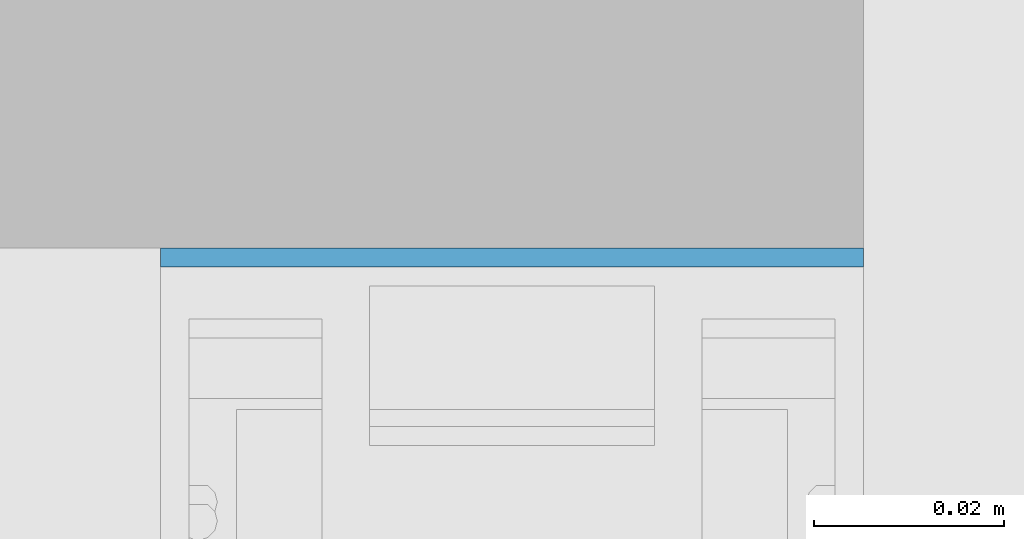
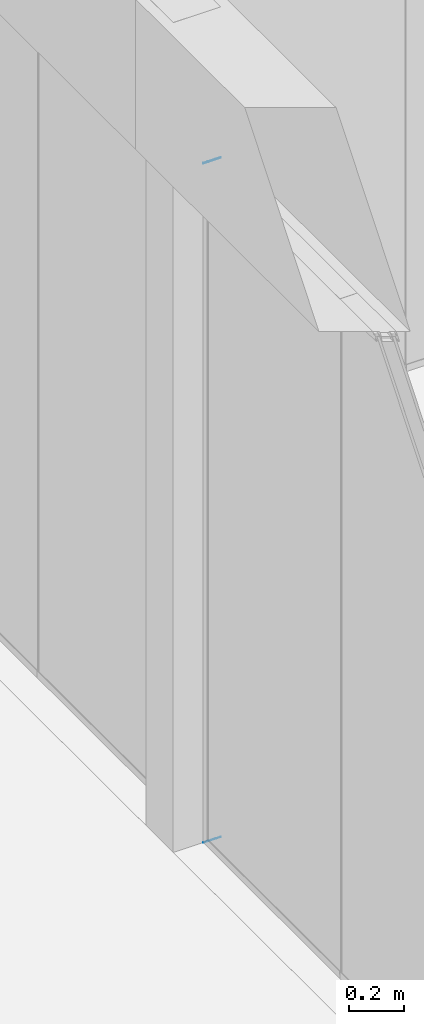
# One storey, part 22 of 387: 2 members, 1 element without a shape of its own.
"""IFC2X3 building model written with IfcOpenShell, lengths in millimetres."""

from ifc_helpers import new_model, entity, si_unit, converted_unit, derived_unit, money_unit, direction, frame, origin_with_axes, place, context, subcontext, project, spatial, polyline, outline, extrude, clip, halfspace, material, type_object, element, aggregate, save


model = new_model("IFC2X3")

# Units and contexts
model_context = context("Model", 3, precision=0.01, world=origin_with_axes(), true_north=direction((0.0, 1.0)))
body_context = subcontext(model_context, "Body", "Model", "MODEL_VIEW")
ifc_project = project(units=[si_unit("LENGTHUNIT", "METRE", prefix="MILLI"), si_unit("AREAUNIT", "SQUARE_METRE"), si_unit("VOLUMEUNIT", "CUBIC_METRE"), converted_unit("PLANEANGLEUNIT", "DEGREE", entity("IfcPlaneAngleMeasure", 0.0174532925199), si_unit("PLANEANGLEUNIT", "RADIAN"), dimensions=[0, 0, 0, 0, 0, 0, 0]), si_unit("SOLIDANGLEUNIT", "STERADIAN"), money_unit("EUR"), converted_unit("TIMEUNIT", "Year", entity("IfcTimeMeasure", 31556926.0), si_unit("TIMEUNIT", "SECOND"), dimensions=[0, 0, 1, 0, 0, 0, 0]), si_unit("MASSUNIT", "GRAM", prefix="KILO"), si_unit("THERMODYNAMICTEMPERATUREUNIT", "DEGREE_CELSIUS"), si_unit("LUMINOUSINTENSITYUNIT", "LUMEN"), si_unit("ENERGYUNIT", "JOULE", prefix="MEGA"), derived_unit("THERMALCONDUCTANCEUNIT", [(si_unit("POWERUNIT", "WATT"), 1), (si_unit("LENGTHUNIT", "METRE"), -1), (si_unit("THERMODYNAMICTEMPERATUREUNIT", "KELVIN"), -1)]), derived_unit("SPECIFICHEATCAPACITYUNIT", [(si_unit("ENERGYUNIT", "JOULE"), 1), (si_unit("MASSUNIT", "GRAM", prefix="KILO"), -1), (si_unit("THERMODYNAMICTEMPERATUREUNIT", "KELVIN"), -1)]), derived_unit("MASSDENSITYUNIT", [(si_unit("MASSUNIT", "GRAM", prefix="KILO"), 1), (si_unit("VOLUMEUNIT", "CUBIC_METRE"), -1)])], contexts=[model_context])

# Site, building, storey
site_placement = place(None, origin_with_axes())
site = spatial("IfcSite", under=ifc_project, at=site_placement, Name="Puškini 31, Narva", CompositionType="ELEMENT")
building_placement = place(site_placement, origin_with_axes())
building = spatial("IfcBuilding", under=site, at=building_placement, Name="Narva Riigigümnaasium", CompositionType="ELEMENT")
storey_placement = place(building_placement, frame((0.0, 0.0, 2640.0), z_axis=(0.0, 0.0, 1.0), x_axis=(1.0, 0.0, 0.0)))
storey = spatial("IfcBuildingStorey", under=building, at=storey_placement, Name="2.korrus +2.64", CompositionType="ELEMENT", Elevation=2640.0)

# Curtain wall, members
curtain_wall_type = type_object("IfcCurtainWallType", Name="Curtain Wall Type", PredefinedType="NOTDEFINED")
curtain_wall_placement = place(storey_placement, frame((32758.0000014, 170699.499919, -1.72487286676e-05), z_axis=(0.0, 0.0, 1.0), x_axis=(1.0, 0.0, 0.0)))
curtain_wall = element("IfcCurtainWall", 1, at=curtain_wall_placement, inside=storey, type_object=curtain_wall_type, Name="G-SKLF-29")
ifc_material = material(Name="Teras RAL7012")
member_type = type_object("IfcMemberType", Name="Boundary Frame 30 x 42", PredefinedType="MULLION")
member_1_placement = place(curtain_wall_placement, frame((6.28119778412e-09, 500.500175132, 3030.00002623), z_axis=(0.0, -0.999999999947, -1.03324498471e-05), x_axis=(0.0, 1.03324498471e-05, -0.999999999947)))
member_1 = element("IfcMember", 2, at=member_1_placement, type_object=member_type, material=ifc_material, Name="G-SKLF-25-raam", ObjectType="MULLION", context=body_context, shape_type="Clipping", body=[
    clip(extrude(outline(polyline([(-22.0000000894, 2.00046443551), (-22.0000000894, 0.0), (12.0000000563, 0.0), (12.0000000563, 2.00046443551), (-22.0000000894, 2.00046443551)])), frame((0.0, 0.0, -3.12638803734e-10), z_axis=(0.0, 0.0, 1.0), x_axis=(0.0, -1.0, 0.0)), (0.0, 0.0, 1.0), 2.00048510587), halfspace(frame((0.000109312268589, 0.0, -0.000109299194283), z_axis=(-0.707149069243, 0.0, 0.707064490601), x_axis=(0.0, -1.0, 0.0)), True)),
    clip(extrude(outline(polyline([(12.0, 0.0), (32.0, 0.0), (32.0, 2.00046443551), (12.0000000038, 2.00046443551), (12.0, 0.0)])), frame((0.0, 0.0, 1.70530256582e-10), z_axis=(0.0, 0.0, 1.0), x_axis=(0.0, -1.0, 0.0)), (0.0, 0.0, 1.0), 2.00048510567), halfspace(frame((0.0, 0.0, 0.0), z_axis=(-0.707110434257, 0.0, 0.707103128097), x_axis=(0.0, -1.0, 0.0)), True)),
    clip(extrude(outline(polyline([(-22.0, 0.0), (-22.0000000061, 2.00046443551), (-42.0, 2.00046443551), (-42.0, 0.0), (-22.0, 0.0)])), frame((0.0, 0.0, -5.96855898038e-10), z_axis=(0.0, 0.0, 1.0), x_axis=(0.0, -1.0, 0.0)), (0.0, 0.0, 1.0), 2.00048510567), halfspace(frame((0.0, 0.0, 0.0), z_axis=(-0.707110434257, 0.0, 0.707103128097), x_axis=(0.0, -1.0, 0.0)), True)),
])
member_2_placement = place(curtain_wall_placement, frame((6.25277607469e-09, 498.5, 0.0), z_axis=(0.0, 1.0, 0.0), x_axis=(0.0, 0.0, 1.0)))
member_2 = element("IfcMember", 3, at=member_2_placement, type_object=member_type, material=ifc_material, Name="G-SKLF-23-raam", ObjectType="MULLION", context=body_context, shape_type="Clipping", body=[
    clip(extrude(outline(polyline([(22.0000000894, -2.00017513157), (22.0000000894, 0.0), (-12.0000000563, 0.0), (-12.0000000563, -2.00017513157), (22.0000000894, -2.00017513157)])), frame((0.0, 0.0, -2.27373675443e-10), z_axis=(0.0, 0.0, 1.0), x_axis=(0.0, 1.0, 0.0)), (0.0, 0.0, 1.0), 2.00017513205), halfspace(frame((1.00004118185, 0.0, 0.999999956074), z_axis=(-0.707121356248, 0.0, -0.707092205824), x_axis=(0.0, 1.0, 0.0)), True)),
    clip(extrude(outline(polyline([(-12.0000000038, -2.00017513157), (-12.0, 0.0), (-32.0, 0.0), (-32.0, -2.00017513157), (-12.0000000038, -2.00017513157)])), frame((0.0, 0.0, -5.11590769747e-10), z_axis=(0.0, 0.0, 1.0), x_axis=(0.0, 1.0, 0.0)), (0.0, 0.0, 1.0), 2.00017513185), halfspace(frame((1.00008756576, 0.0, 1.00008756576), z_axis=(-0.707106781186, 0.0, -0.707106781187), x_axis=(0.0, 1.0, 0.0)), True)),
    clip(extrude(outline(polyline([(42.0, -2.00017513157), (42.0, 0.0), (22.0, 0.0), (22.000000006, -2.00017513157), (42.0, -2.00017513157)])), frame((0.0, 0.0, 2.55795384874e-10), z_axis=(0.0, 0.0, 1.0), x_axis=(0.0, 1.0, 0.0)), (0.0, 0.0, 1.0), 2.00017513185), halfspace(frame((1.00008756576, 0.0, 1.00008756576), z_axis=(-0.707106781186, 0.0, -0.707106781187), x_axis=(0.0, 1.0, 0.0)), True)),
])
aggregate(curtain_wall, [member_1, member_2])

save(model, "model.ifc")
